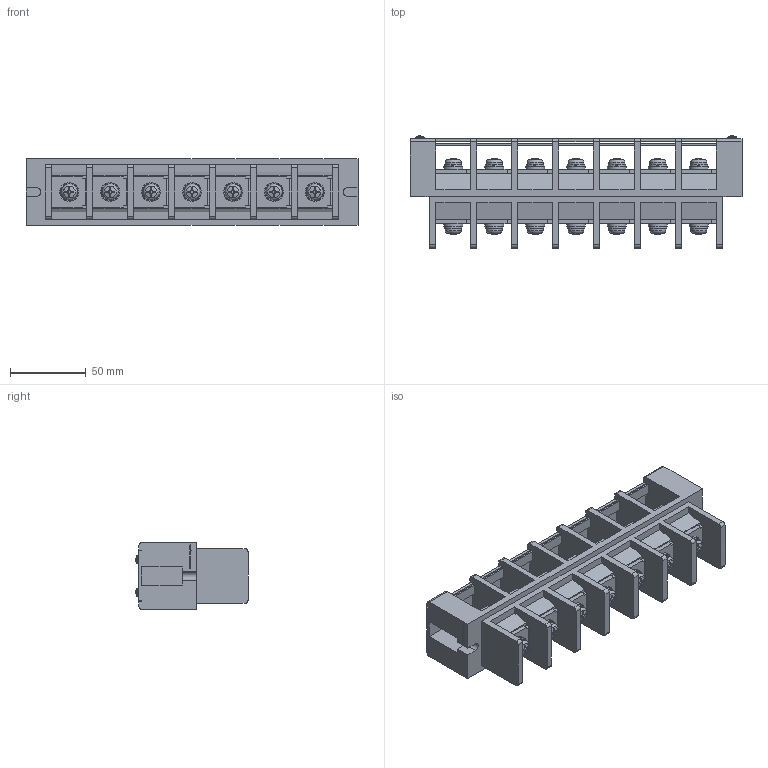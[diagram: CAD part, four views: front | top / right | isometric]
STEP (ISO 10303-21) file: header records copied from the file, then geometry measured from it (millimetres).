
FILE_DESCRIPTION(/* description */ ('Alibre Inc.'),/* implementation_level */ '2;1');
FILE_NAME(/* name */ 'export0',/* time_stamp */ '2016-04-05T18:15:20+09:00',/* author */ (''),/* organization */ (''),/* preprocessor_version */ 'ST-DEVELOPER v14',/* originating_system */ 'Alibre',/* authorisation */ '');
FILE_SCHEMA (('CONFIG_CONTROL_DESIGN'));
Length unit declared in the file: centimetre
Products named in the file (1): ID_1
Bounding box: 219 x 73.94 x 44 mm (x, y, z)
Volume: 244784.8 mm3; surface area: 116528.7 mm2
Topology: 9 solids, 11 shells, 1103 faces, 3064 edges, 1993 vertices
Faces by surface type: plane 771, cylinder 170, cone 78, bspline 52, torus 16, sphere 16
Full cylindrical faces by diameter (mm): 3 x4, 5.5 x2, 6 x14, 8 x14, 10.5 x14, 12.5 x14
Entity records: 33280 total; most frequent: CARTESIAN_POINT 6799, ORIENTED_EDGE 5898, DIRECTION 4493, EDGE_CURVE 2949, VERTEX_POINT 1970, VECTOR 1873, LINE 1873, AXIS2_PLACEMENT_3D 1692
